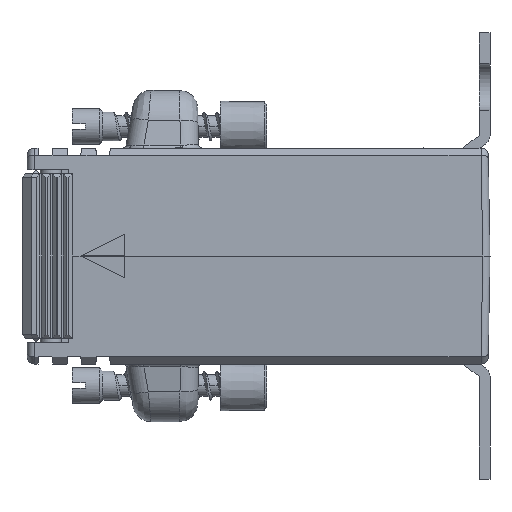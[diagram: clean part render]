
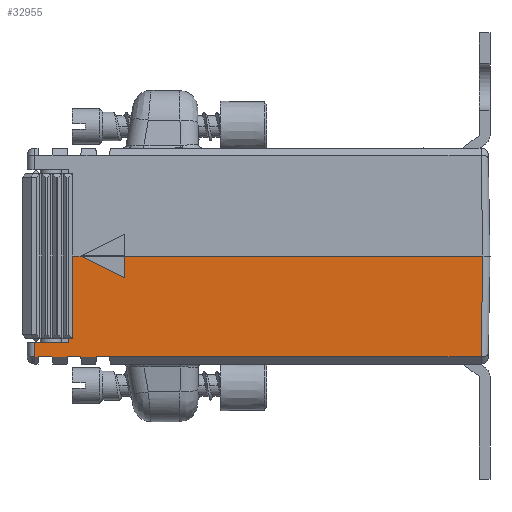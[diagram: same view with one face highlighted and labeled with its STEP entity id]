
A CAD part, left-side view. The second image highlights one B-rep face of the part: STEP entity #32955.
In plain terms, the highlighted planar face has unit normal (-1, 0, -0.018).
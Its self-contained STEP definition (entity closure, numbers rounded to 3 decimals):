
#604=PLANE('',#34810);
#2753=FACE_OUTER_BOUND('',#4556,.T.);
#4556=EDGE_LOOP('',(#21859,#21860,#21861,#21862,#21863,#21864,#21865,#21866,
#21867,#21868,#21869,#21870,#21871,#21872,#21873,#21874,#21875,#21876,#21877,
#21878,#21879,#21880,#21881));
#7000=LINE('',#46221,#10328);
#7082=LINE('',#46401,#10410);
#7117=LINE('',#46475,#10445);
#7118=LINE('',#46477,#10446);
#7119=LINE('',#46479,#10447);
#7120=LINE('',#46481,#10448);
#7121=LINE('',#46483,#10449);
#7122=LINE('',#46485,#10450);
#7123=LINE('',#46487,#10451);
#7124=LINE('',#46489,#10452);
#7125=LINE('',#46491,#10453);
#7126=LINE('',#46493,#10454);
#7127=LINE('',#46495,#10455);
#7128=LINE('',#46497,#10456);
#7129=LINE('',#46499,#10457);
#7130=LINE('',#46501,#10458);
#7131=LINE('',#46503,#10459);
#7132=LINE('',#46505,#10460);
#7133=LINE('',#46507,#10461);
#7134=LINE('',#46509,#10462);
#7135=LINE('',#46511,#10463);
#7136=LINE('',#46513,#10464);
#7137=LINE('',#46514,#10465);
#10328=VECTOR('',#36924,10.);
#10410=VECTOR('',#37068,10.);
#10445=VECTOR('',#37161,1000.);
#10446=VECTOR('',#37162,1000.);
#10447=VECTOR('',#37163,1000.);
#10448=VECTOR('',#37164,1000.);
#10449=VECTOR('',#37165,1000.);
#10450=VECTOR('',#37166,1000.);
#10451=VECTOR('',#37167,1000.);
#10452=VECTOR('',#37168,1000.);
#10453=VECTOR('',#37169,1000.);
#10454=VECTOR('',#37170,1000.);
#10455=VECTOR('',#37171,1000.);
#10456=VECTOR('',#37172,1000.);
#10457=VECTOR('',#37173,1000.);
#10458=VECTOR('',#37174,1000.);
#10459=VECTOR('',#37175,1000.);
#10460=VECTOR('',#37176,1000.);
#10461=VECTOR('',#37177,1000.);
#10462=VECTOR('',#37178,1000.);
#10463=VECTOR('',#37179,1000.);
#10464=VECTOR('',#37180,1000.);
#10465=VECTOR('',#37181,1000.);
#13723=VERTEX_POINT('',#46219);
#13724=VERTEX_POINT('',#46220);
#13791=VERTEX_POINT('',#46400);
#13801=VERTEX_POINT('',#46474);
#13802=VERTEX_POINT('',#46476);
#13803=VERTEX_POINT('',#46478);
#13804=VERTEX_POINT('',#46480);
#13805=VERTEX_POINT('',#46482);
#13806=VERTEX_POINT('',#46484);
#13807=VERTEX_POINT('',#46486);
#13808=VERTEX_POINT('',#46488);
#13809=VERTEX_POINT('',#46490);
#13810=VERTEX_POINT('',#46492);
#13811=VERTEX_POINT('',#46494);
#13812=VERTEX_POINT('',#46496);
#13813=VERTEX_POINT('',#46498);
#13814=VERTEX_POINT('',#46500);
#13815=VERTEX_POINT('',#46502);
#13816=VERTEX_POINT('',#46504);
#13817=VERTEX_POINT('',#46506);
#13818=VERTEX_POINT('',#46508);
#13819=VERTEX_POINT('',#46510);
#13820=VERTEX_POINT('',#46512);
#16815=EDGE_CURVE('',#13723,#13724,#7000,.T.);
#16905=EDGE_CURVE('',#13724,#13791,#7082,.T.);
#16942=EDGE_CURVE('',#13791,#13801,#7117,.T.);
#16943=EDGE_CURVE('',#13801,#13802,#7118,.T.);
#16944=EDGE_CURVE('',#13802,#13803,#7119,.T.);
#16945=EDGE_CURVE('',#13803,#13804,#7120,.T.);
#16946=EDGE_CURVE('',#13804,#13805,#7121,.T.);
#16947=EDGE_CURVE('',#13805,#13806,#7122,.T.);
#16948=EDGE_CURVE('',#13806,#13807,#7123,.T.);
#16949=EDGE_CURVE('',#13807,#13808,#7124,.T.);
#16950=EDGE_CURVE('',#13808,#13809,#7125,.T.);
#16951=EDGE_CURVE('',#13809,#13810,#7126,.T.);
#16952=EDGE_CURVE('',#13810,#13811,#7127,.T.);
#16953=EDGE_CURVE('',#13811,#13812,#7128,.T.);
#16954=EDGE_CURVE('',#13812,#13813,#7129,.T.);
#16955=EDGE_CURVE('',#13813,#13814,#7130,.T.);
#16956=EDGE_CURVE('',#13814,#13815,#7131,.T.);
#16957=EDGE_CURVE('',#13815,#13816,#7132,.T.);
#16958=EDGE_CURVE('',#13816,#13817,#7133,.T.);
#16959=EDGE_CURVE('',#13817,#13818,#7134,.T.);
#16960=EDGE_CURVE('',#13819,#13818,#7135,.T.);
#16961=EDGE_CURVE('',#13820,#13819,#7136,.T.);
#16962=EDGE_CURVE('',#13820,#13723,#7137,.T.);
#21859=ORIENTED_EDGE('',*,*,#16815,.T.);
#21860=ORIENTED_EDGE('',*,*,#16905,.T.);
#21861=ORIENTED_EDGE('',*,*,#16942,.T.);
#21862=ORIENTED_EDGE('',*,*,#16943,.T.);
#21863=ORIENTED_EDGE('',*,*,#16944,.T.);
#21864=ORIENTED_EDGE('',*,*,#16945,.T.);
#21865=ORIENTED_EDGE('',*,*,#16946,.T.);
#21866=ORIENTED_EDGE('',*,*,#16947,.T.);
#21867=ORIENTED_EDGE('',*,*,#16948,.T.);
#21868=ORIENTED_EDGE('',*,*,#16949,.T.);
#21869=ORIENTED_EDGE('',*,*,#16950,.T.);
#21870=ORIENTED_EDGE('',*,*,#16951,.T.);
#21871=ORIENTED_EDGE('',*,*,#16952,.T.);
#21872=ORIENTED_EDGE('',*,*,#16953,.T.);
#21873=ORIENTED_EDGE('',*,*,#16954,.T.);
#21874=ORIENTED_EDGE('',*,*,#16955,.T.);
#21875=ORIENTED_EDGE('',*,*,#16956,.T.);
#21876=ORIENTED_EDGE('',*,*,#16957,.T.);
#21877=ORIENTED_EDGE('',*,*,#16958,.T.);
#21878=ORIENTED_EDGE('',*,*,#16959,.T.);
#21879=ORIENTED_EDGE('',*,*,#16960,.F.);
#21880=ORIENTED_EDGE('',*,*,#16961,.F.);
#21881=ORIENTED_EDGE('',*,*,#16962,.T.);
#32955=ADVANCED_FACE('',(#2753),#604,.T.);
#34810=AXIS2_PLACEMENT_3D('',#46473,#37159,#37160);
#36924=DIRECTION('',(0.017,0.,-1.));
#37068=DIRECTION('',(0.,1.,0.));
#37159=DIRECTION('center_axis',(-1.,0.,
-0.017));
#37160=DIRECTION('ref_axis',(-0.017,0.,1.));
#37161=DIRECTION('',(0.017,0.017,-1.));
#37162=DIRECTION('',(0.,1.,0.));
#37163=DIRECTION('',(0.017,-0.017,-1.));
#37164=DIRECTION('',(0.,-1.,0.));
#37165=DIRECTION('',(-0.017,-0.087,0.996));
#37166=DIRECTION('',(0.,-1.,0.));
#37167=DIRECTION('',(0.017,-0.087,-0.996));
#37168=DIRECTION('',(0.,-1.,0.));
#37169=DIRECTION('',(-0.017,-0.087,0.996));
#37170=DIRECTION('',(0.,-1.,0.));
#37171=DIRECTION('',(0.017,-0.087,-0.996));
#37172=DIRECTION('',(0.,-1.,0.));
#37173=DIRECTION('',(-0.017,-0.087,0.996));
#37174=DIRECTION('',(0.,-1.,0.));
#37175=DIRECTION('',(0.017,-0.087,-0.996));
#37176=DIRECTION('',(0.,-1.,0.));
#37177=DIRECTION('',(-0.017,-0.017,1.));
#37178=DIRECTION('',(0.,1.,0.));
#37179=DIRECTION('',(-0.017,0.,1.));
#37180=DIRECTION('',(0.008,-0.894,-0.447));
#37181=DIRECTION('',(0.,1.,0.));
#46219=CARTESIAN_POINT('',(-22.,31.,0.));
#46220=CARTESIAN_POINT('',(-21.801,31.,-11.425));
#46221=CARTESIAN_POINT('',(-22.1,31.,5.718));
#46400=CARTESIAN_POINT('',(-21.801,31.49,-11.425));
#46401=CARTESIAN_POINT('',(-21.801,35.75,-11.425));
#46473=CARTESIAN_POINT('Origin',(-22.,37.5,0.));
#46474=CARTESIAN_POINT('',(-21.791,31.5,-12.));
#46475=CARTESIAN_POINT('',(-21.998,31.292,-0.108));
#46476=CARTESIAN_POINT('',(-21.791,36.291,-12.));
#46477=CARTESIAN_POINT('',(-21.791,37.5,-12.));
#46478=CARTESIAN_POINT('',(-21.756,36.256,-14.));
#46479=CARTESIAN_POINT('',(-22.,36.5,0.017));
#46480=CARTESIAN_POINT('',(-21.756,35.663,-14.));
#46481=CARTESIAN_POINT('',(-21.756,-26.738,-14.));
#46482=CARTESIAN_POINT('',(-21.756,35.663,-14.));
#46483=CARTESIAN_POINT('',(-21.995,34.461,-0.266));
#46484=CARTESIAN_POINT('',(-21.756,33.837,-14.));
#46485=CARTESIAN_POINT('',(-21.756,37.5,-14.));
#46486=CARTESIAN_POINT('',(-21.756,33.837,-14.));
#46487=CARTESIAN_POINT('',(-22.004,35.081,0.212));
#46488=CARTESIAN_POINT('',(-21.756,31.663,-14.));
#46489=CARTESIAN_POINT('',(-21.756,-26.738,-14.));
#46490=CARTESIAN_POINT('',(-21.756,31.663,-14.));
#46491=CARTESIAN_POINT('',(-21.989,30.491,-0.613));
#46492=CARTESIAN_POINT('',(-21.756,29.837,-14.));
#46493=CARTESIAN_POINT('',(-21.756,37.5,-14.));
#46494=CARTESIAN_POINT('',(-21.756,29.837,-14.));
#46495=CARTESIAN_POINT('',(-22.01,31.111,0.559));
#46496=CARTESIAN_POINT('',(-21.756,27.663,-14.));
#46497=CARTESIAN_POINT('',(-21.756,-26.738,-14.));
#46498=CARTESIAN_POINT('',(-21.756,27.663,-14.));
#46499=CARTESIAN_POINT('',(-21.983,26.522,-0.96));
#46500=CARTESIAN_POINT('',(-21.756,25.837,-14.));
#46501=CARTESIAN_POINT('',(-21.756,37.5,-14.));
#46502=CARTESIAN_POINT('',(-21.756,25.837,-14.));
#46503=CARTESIAN_POINT('',(-22.016,27.142,0.906));
#46504=CARTESIAN_POINT('',(-21.756,-25.756,-14.));
#46505=CARTESIAN_POINT('',(-21.756,-26.738,-14.));
#46506=CARTESIAN_POINT('',(-22.,-26.,0.));
#46507=CARTESIAN_POINT('',(-21.981,-25.981,-1.108));
#46508=CARTESIAN_POINT('',(-22.,23.791,0.));
#46509=CARTESIAN_POINT('',(-22.,37.5,0.));
#46510=CARTESIAN_POINT('',(-21.948,23.791,-3.));
#46511=CARTESIAN_POINT('',(-21.948,23.791,-3.));
#46512=CARTESIAN_POINT('',(-22.,29.791,0.));
#46513=CARTESIAN_POINT('',(-22.,29.791,0.));
#46514=CARTESIAN_POINT('',(-22.,37.5,0.));
